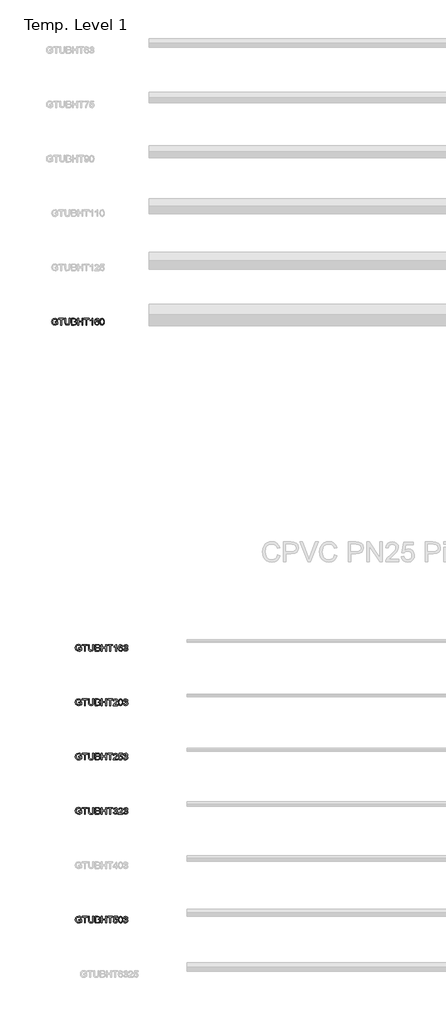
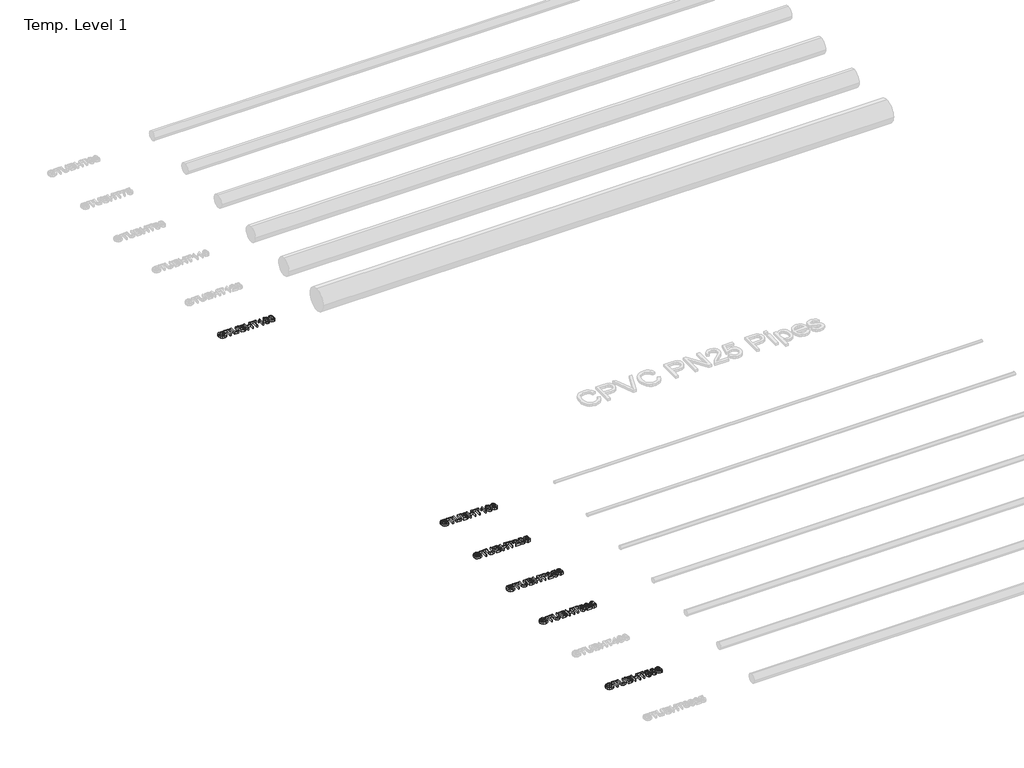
# One storey, part 7 of 62: 6 proxies.
"""IFC4 building model written with IfcOpenShell, lengths in millimetres."""

from ifc_helpers import new_model, si_unit, origin, origin_with_axes, place, context, project, spatial, polyline, outline, extrude, element, save

model = new_model("IFC4")

# Units and contexts
model_context = context("Model", 3, world=origin())
ifc_project = project(units=[si_unit("LENGTHUNIT", "METRE", prefix="MILLI")], contexts=[model_context])

# Site, building, storey
site = spatial("IfcSite", under=ifc_project)
building = spatial("IfcBuilding", under=site)
storey = spatial("IfcBuildingStorey", under=building, Name="Temp. Level 1", Elevation=0.0)

# Proxies
placement = place(None, origin())
element("IfcBuildingElementProxy", 1, Name="50mm Arial", ObjectType="50mm Arial", at=placement, inside=storey, context=model_context, shape_type="SweptSolid", body=[
    extrude(outline(polyline([(2446.7141386, -4678.4984888), (2446.7141386, -4672.3446426), (2466.7141386, -4672.3446426), (2466.7141386, -4690.7460849), (2456.8403406, -4696.5513734), (2446.4016386, -4698.4984888), (2433.2586098, -4695.4035368), (2424.3403406, -4686.4432003), (2421.3295233, -4673.354258), (2424.3283213, -4659.9708445), (2432.9521194, -4650.7460849), (2445.9088502, -4647.729258), (2455.536254, -4649.4780561), (2462.2850521, -4654.3458445), (2466.005004, -4662.4888734), (2460.3319271, -4664.0874311), (2457.5254367, -4658.3963253), (2452.7297636, -4655.1150753), (2445.8126963, -4653.8831042), (2437.9340906, -4655.2112292), (2432.5735136, -4658.6968061), (2429.4064463, -4663.4383926), (2427.4833694, -4673.1018542), (2429.7970713, -4683.8290176), (2436.5278406, -4690.2472868), (2445.9088502, -4692.3446426), (2454.3283213, -4690.7641138), (2460.5602925, -4687.3927195), (2460.5602925, -4678.4984888), (2446.7141386, -4678.4984888)])), origin_with_axes(), (0.0, 0.0, 1.0), 15.0),
    extrude(outline(polyline([(2489.0218309, -4697.729258), (2489.0218309, -4654.6523349), (2472.8679848, -4654.6523349), (2472.8679848, -4648.4984888), (2511.3295233, -4648.4984888), (2511.3295233, -4654.6523349), (2495.1756771, -4654.6523349), (2495.1756771, -4697.729258), (2489.0218309, -4697.729258)])), origin_with_axes(), (0.0, 0.0, 1.0), 15.0),
    extrude(outline(polyline([(2550.5602925, -4648.4984888), (2556.7141386, -4648.4984888), (2556.7141386, -4676.8999311), (2555.0434656, -4688.6727676), (2549.0218309, -4695.7641138), (2537.6035617, -4698.4984888), (2526.3595713, -4696.1186811), (2520.1215906, -4689.2256522), (2518.2526002, -4676.8999311), (2518.2526002, -4648.4984888), (2524.4064463, -4648.4984888), (2524.4064463, -4676.6835849), (2525.6203886, -4686.0645945), (2529.7910617, -4690.7100272), (2537.0266386, -4692.3446426), (2547.4473117, -4689.1114695), (2550.5602925, -4676.6835849), (2550.5602925, -4648.4984888)])), origin_with_axes(), (0.0, 0.0, 1.0), 15.0),
    extrude(outline(polyline([(2567.4833694, -4697.729258), (2567.4833694, -4648.4984888), (2586.2694271, -4648.4984888), (2595.4701483, -4649.9468061), (2600.9028406, -4654.3999311), (2602.8679848, -4660.698008), (2601.2153406, -4666.4492099), (2596.2213502, -4670.8061811), (2602.2850521, -4675.3975272), (2604.4064463, -4683.0537772), (2602.958129, -4689.6703638), (2599.3703886, -4694.3819022), (2594.0158213, -4696.8819022), (2586.1251963, -4697.729258), (2567.4833694, -4697.729258)]), holes=[polyline([(2573.6372156, -4691.5754118), (2586.2574079, -4691.5754118), (2590.8247156, -4691.3350272), (2594.6888983, -4689.994883), (2597.2489944, -4687.260508), (2598.2526002, -4683.1138734), (2597.0747156, -4678.3302195), (2593.2586098, -4675.4756522), (2585.6564463, -4674.6523349), (2573.6372156, -4674.6523349), (2573.6372156, -4691.5754118)]), polyline([(2573.6372156, -4668.4984888), (2584.8751963, -4668.4984888), (2591.4376963, -4667.9696426), (2595.3860136, -4665.6919984), (2596.7141386, -4661.6835849), (2595.4761579, -4657.6691618), (2591.9304848, -4655.2953638), (2584.0218309, -4654.6523349), (2573.6372156, -4654.6523349), (2573.6372156, -4668.4984888)])]), origin_with_axes(), (0.0, 0.0, 1.0), 15.0),
    extrude(outline(polyline([(2612.8679848, -4697.729258), (2612.8679848, -4648.4984888), (2619.0218309, -4648.4984888), (2619.0218309, -4668.4984888), (2645.1756771, -4668.4984888), (2645.1756771, -4648.4984888), (2651.3295233, -4648.4984888), (2651.3295233, -4697.729258), (2645.1756771, -4697.729258), (2645.1756771, -4674.6523349), (2619.0218309, -4674.6523349), (2619.0218309, -4697.729258), (2612.8679848, -4697.729258)])), origin_with_axes(), (0.0, 0.0, 1.0), 15.0),
    extrude(outline(polyline([(2674.4064463, -4697.729258), (2674.4064463, -4654.6523349), (2658.2526002, -4654.6523349), (2658.2526002, -4648.4984888), (2696.7141386, -4648.4984888), (2696.7141386, -4654.6523349), (2680.5602925, -4654.6523349), (2680.5602925, -4697.729258), (2674.4064463, -4697.729258)])), origin_with_axes(), (0.0, 0.0, 1.0), 15.0),
    extrude(outline(polyline([(2724.4064463, -4697.729258), (2718.2526002, -4697.729258), (2718.2526002, -4659.3638734), (2712.4232733, -4663.5165176), (2705.9449079, -4666.6234888), (2705.9449079, -4660.8061811), (2714.9653406, -4655.0489695), (2720.4401002, -4648.4984888), (2724.4064463, -4648.4984888), (2724.4064463, -4697.729258)])), origin_with_axes(), (0.0, 0.0, 1.0), 15.0),
    extrude(outline(polyline([(2770.5602925, -4661.5754118), (2764.4064463, -4662.3446426), (2762.0747156, -4657.2124311), (2755.9088502, -4654.6523349), (2750.3559656, -4656.1427195), (2746.1552444, -4661.7376715), (2744.4064463, -4672.7052195), (2749.833129, -4667.7953638), (2756.5578886, -4666.1907965), (2767.0146194, -4670.5778157), (2771.3295233, -4681.9119503), (2769.2982733, -4690.4035368), (2763.7093309, -4696.4131522), (2755.6444271, -4698.4984888), (2743.1023598, -4692.9696426), (2739.4650401, -4685.6499311), (2738.2526002, -4674.7484888), (2739.598754, -4662.4918782), (2743.6372156, -4654.1114695), (2749.1510377, -4649.901734), (2756.2934656, -4648.4984888), (2766.0170233, -4651.9720465), (2770.5602925, -4661.5754118)]), holes=[polyline([(2744.4064463, -4681.8157965), (2745.8307252, -4687.1463253), (2749.6167829, -4691.0165176), (2755.1636579, -4692.3446426), (2762.4172636, -4689.5922388), (2765.1756771, -4682.1162772), (2762.4533213, -4674.9588253), (2754.911254, -4672.3446426), (2747.4653406, -4674.9588253), (2744.4064463, -4681.8157965)])]), origin_with_axes(), (0.0, 0.0, 1.0), 15.0),
    extrude(outline(polyline([(2776.7141386, -4684.6523349), (2782.8679848, -4683.8831042), (2786.2634175, -4690.3614695), (2792.6155809, -4692.3446426), (2800.0915425, -4689.6162772), (2802.8679848, -4682.8614695), (2800.1155809, -4676.4972868), (2793.1203886, -4673.979258), (2788.8054848, -4674.6523349), (2789.4905809, -4668.4984888), (2797.4593309, -4666.8037772), (2800.5602925, -4661.3710849), (2798.3126963, -4656.557383), (2792.5194271, -4654.6523349), (2786.6540425, -4656.5754118), (2783.6372156, -4662.3446426), (2777.4833694, -4661.5754118), (2782.5194271, -4651.9239695), (2792.3030809, -4648.4984888), (2799.7249559, -4650.1871907), (2804.9172636, -4654.8025753), (2806.7141386, -4661.010508), (2805.0074079, -4666.6835849), (2799.9593309, -4670.7581042), (2806.6660617, -4674.9648349), (2809.0218309, -4682.9696426), (2804.3102925, -4693.979258), (2792.3992348, -4698.4984888), (2781.6059656, -4694.6403157), (2776.7141386, -4684.6523349)])), origin_with_axes(), (0.0, 0.0, 1.0), 15.0),
])
element("IfcBuildingElementProxy", 2, Name="50mm Arial", ObjectType="50mm Arial", at=placement, inside=storey, context=model_context, shape_type="SweptSolid", body=[
    extrude(outline(polyline([(2446.7141386, -5078.4984888), (2446.7141386, -5072.3446426), (2466.7141386, -5072.3446426), (2466.7141386, -5090.7460849), (2456.8403406, -5096.5513734), (2446.4016386, -5098.4984888), (2433.2586098, -5095.4035368), (2424.3403406, -5086.4432003), (2421.3295233, -5073.354258), (2424.3283213, -5059.9708445), (2432.9521194, -5050.7460849), (2445.9088502, -5047.729258), (2455.536254, -5049.4780561), (2462.2850521, -5054.3458445), (2466.005004, -5062.4888734), (2460.3319271, -5064.0874311), (2457.5254367, -5058.3963253), (2452.7297636, -5055.1150753), (2445.8126963, -5053.8831042), (2437.9340906, -5055.2112292), (2432.5735136, -5058.6968061), (2429.4064463, -5063.4383926), (2427.4833694, -5073.1018542), (2429.7970713, -5083.8290176), (2436.5278406, -5090.2472868), (2445.9088502, -5092.3446426), (2454.3283213, -5090.7641138), (2460.5602925, -5087.3927195), (2460.5602925, -5078.4984888), (2446.7141386, -5078.4984888)])), origin_with_axes(), (0.0, 0.0, 1.0), 15.0),
    extrude(outline(polyline([(2489.0218309, -5097.729258), (2489.0218309, -5054.6523349), (2472.8679848, -5054.6523349), (2472.8679848, -5048.4984888), (2511.3295233, -5048.4984888), (2511.3295233, -5054.6523349), (2495.1756771, -5054.6523349), (2495.1756771, -5097.729258), (2489.0218309, -5097.729258)])), origin_with_axes(), (0.0, 0.0, 1.0), 15.0),
    extrude(outline(polyline([(2550.5602925, -5048.4984888), (2556.7141386, -5048.4984888), (2556.7141386, -5076.8999311), (2555.0434656, -5088.6727676), (2549.0218309, -5095.7641138), (2537.6035617, -5098.4984888), (2526.3595713, -5096.1186811), (2520.1215906, -5089.2256522), (2518.2526002, -5076.8999311), (2518.2526002, -5048.4984888), (2524.4064463, -5048.4984888), (2524.4064463, -5076.6835849), (2525.6203886, -5086.0645945), (2529.7910617, -5090.7100272), (2537.0266386, -5092.3446426), (2547.4473117, -5089.1114695), (2550.5602925, -5076.6835849), (2550.5602925, -5048.4984888)])), origin_with_axes(), (0.0, 0.0, 1.0), 15.0),
    extrude(outline(polyline([(2567.4833694, -5097.729258), (2567.4833694, -5048.4984888), (2586.2694271, -5048.4984888), (2595.4701483, -5049.9468061), (2600.9028406, -5054.3999311), (2602.8679848, -5060.698008), (2601.2153406, -5066.4492099), (2596.2213502, -5070.8061811), (2602.2850521, -5075.3975272), (2604.4064463, -5083.0537772), (2602.958129, -5089.6703638), (2599.3703886, -5094.3819022), (2594.0158213, -5096.8819022), (2586.1251963, -5097.729258), (2567.4833694, -5097.729258)]), holes=[polyline([(2573.6372156, -5091.5754118), (2586.2574079, -5091.5754118), (2590.8247156, -5091.3350272), (2594.6888983, -5089.994883), (2597.2489944, -5087.260508), (2598.2526002, -5083.1138734), (2597.0747156, -5078.3302195), (2593.2586098, -5075.4756522), (2585.6564463, -5074.6523349), (2573.6372156, -5074.6523349), (2573.6372156, -5091.5754118)]), polyline([(2573.6372156, -5068.4984888), (2584.8751963, -5068.4984888), (2591.4376963, -5067.9696426), (2595.3860136, -5065.6919984), (2596.7141386, -5061.6835849), (2595.4761579, -5057.6691618), (2591.9304848, -5055.2953638), (2584.0218309, -5054.6523349), (2573.6372156, -5054.6523349), (2573.6372156, -5068.4984888)])]), origin_with_axes(), (0.0, 0.0, 1.0), 15.0),
    extrude(outline(polyline([(2612.8679848, -5097.729258), (2612.8679848, -5048.4984888), (2619.0218309, -5048.4984888), (2619.0218309, -5068.4984888), (2645.1756771, -5068.4984888), (2645.1756771, -5048.4984888), (2651.3295233, -5048.4984888), (2651.3295233, -5097.729258), (2645.1756771, -5097.729258), (2645.1756771, -5074.6523349), (2619.0218309, -5074.6523349), (2619.0218309, -5097.729258), (2612.8679848, -5097.729258)])), origin_with_axes(), (0.0, 0.0, 1.0), 15.0),
    extrude(outline(polyline([(2674.4064463, -5097.729258), (2674.4064463, -5054.6523349), (2658.2526002, -5054.6523349), (2658.2526002, -5048.4984888), (2696.7141386, -5048.4984888), (2696.7141386, -5054.6523349), (2680.5602925, -5054.6523349), (2680.5602925, -5097.729258), (2674.4064463, -5097.729258)])), origin_with_axes(), (0.0, 0.0, 1.0), 15.0),
    extrude(outline(polyline([(2732.8679848, -5091.5754118), (2732.8679848, -5097.729258), (2700.5602925, -5097.729258), (2701.2213502, -5093.4864695), (2704.9593309, -5086.9540176), (2712.6636579, -5079.8206042), (2723.2886579, -5069.5682003), (2725.9449079, -5062.5970465), (2723.4388983, -5056.9540176), (2716.8944271, -5054.6523349), (2710.0735136, -5056.8999311), (2707.4833694, -5063.1138734), (2701.3295233, -5062.3446426), (2706.0470713, -5052.0441618), (2717.0266386, -5048.4984888), (2728.0422636, -5052.4407965), (2732.098754, -5062.2244503), (2731.005004, -5068.0597868), (2727.3691867, -5074.0934407), (2718.5530809, -5082.5249311), (2711.473754, -5088.4444022), (2708.6973117, -5091.5754118), (2732.8679848, -5091.5754118)])), origin_with_axes(), (0.0, 0.0, 1.0), 15.0),
    extrude(outline(polyline([(2739.0218309, -5073.510508), (2740.8307252, -5059.3458445), (2746.2033213, -5051.1787772), (2755.1756771, -5048.4984888), (2762.3631771, -5050.0850272), (2767.3271194, -5054.6583445), (2770.2117348, -5061.9419984), (2771.3295233, -5073.510508), (2769.5386579, -5087.6150753), (2764.1840906, -5095.8001715), (2755.1756771, -5098.4984888), (2743.9256771, -5093.8109888), (2740.2477925, -5085.4846667), (2739.0218309, -5073.510508)]), holes=[polyline([(2745.1756771, -5073.4984888), (2748.0602925, -5088.7809407), (2755.1756771, -5092.3446426), (2762.2910617, -5088.7689215), (2765.1756771, -5073.4984888), (2762.3872156, -5058.3903157), (2755.1035617, -5054.6523349), (2748.1564463, -5057.9456042), (2745.1756771, -5073.4984888)])]), origin_with_axes(), (0.0, 0.0, 1.0), 15.0),
    extrude(outline(polyline([(2776.7141386, -5084.6523349), (2782.8679848, -5083.8831042), (2786.2634175, -5090.3614695), (2792.6155809, -5092.3446426), (2800.0915425, -5089.6162772), (2802.8679848, -5082.8614695), (2800.1155809, -5076.4972868), (2793.1203886, -5073.979258), (2788.8054848, -5074.6523349), (2789.4905809, -5068.4984888), (2797.4593309, -5066.8037772), (2800.5602925, -5061.3710849), (2798.3126963, -5056.557383), (2792.5194271, -5054.6523349), (2786.6540425, -5056.5754118), (2783.6372156, -5062.3446426), (2777.4833694, -5061.5754118), (2782.5194271, -5051.9239695), (2792.3030809, -5048.4984888), (2799.7249559, -5050.1871907), (2804.9172636, -5054.8025753), (2806.7141386, -5061.010508), (2805.0074079, -5066.6835849), (2799.9593309, -5070.7581042), (2806.6660617, -5074.9648349), (2809.0218309, -5082.9696426), (2804.3102925, -5093.979258), (2792.3992348, -5098.4984888), (2781.6059656, -5094.6403157), (2776.7141386, -5084.6523349)])), origin_with_axes(), (0.0, 0.0, 1.0), 15.0),
])
element("IfcBuildingElementProxy", 3, Name="50mm Arial", ObjectType="50mm Arial", at=placement, inside=storey, context=model_context, shape_type="SweptSolid", body=[
    extrude(outline(polyline([(2446.7141386, -5478.4984888), (2446.7141386, -5472.3446426), (2466.7141386, -5472.3446426), (2466.7141386, -5490.7460849), (2456.8403406, -5496.5513734), (2446.4016386, -5498.4984888), (2433.2586098, -5495.4035368), (2424.3403406, -5486.4432003), (2421.3295233, -5473.354258), (2424.3283213, -5459.9708445), (2432.9521194, -5450.7460849), (2445.9088502, -5447.729258), (2455.536254, -5449.4780561), (2462.2850521, -5454.3458445), (2466.005004, -5462.4888734), (2460.3319271, -5464.0874311), (2457.5254367, -5458.3963253), (2452.7297636, -5455.1150753), (2445.8126963, -5453.8831042), (2437.9340906, -5455.2112292), (2432.5735136, -5458.6968061), (2429.4064463, -5463.4383926), (2427.4833694, -5473.1018542), (2429.7970713, -5483.8290176), (2436.5278406, -5490.2472868), (2445.9088502, -5492.3446426), (2454.3283213, -5490.7641138), (2460.5602925, -5487.3927195), (2460.5602925, -5478.4984888), (2446.7141386, -5478.4984888)])), origin_with_axes(), (0.0, 0.0, 1.0), 15.0),
    extrude(outline(polyline([(2489.0218309, -5497.729258), (2489.0218309, -5454.6523349), (2472.8679848, -5454.6523349), (2472.8679848, -5448.4984888), (2511.3295233, -5448.4984888), (2511.3295233, -5454.6523349), (2495.1756771, -5454.6523349), (2495.1756771, -5497.729258), (2489.0218309, -5497.729258)])), origin_with_axes(), (0.0, 0.0, 1.0), 15.0),
    extrude(outline(polyline([(2550.5602925, -5448.4984888), (2556.7141386, -5448.4984888), (2556.7141386, -5476.8999311), (2555.0434656, -5488.6727676), (2549.0218309, -5495.7641138), (2537.6035617, -5498.4984888), (2526.3595713, -5496.1186811), (2520.1215906, -5489.2256522), (2518.2526002, -5476.8999311), (2518.2526002, -5448.4984888), (2524.4064463, -5448.4984888), (2524.4064463, -5476.6835849), (2525.6203886, -5486.0645945), (2529.7910617, -5490.7100272), (2537.0266386, -5492.3446426), (2547.4473117, -5489.1114695), (2550.5602925, -5476.6835849), (2550.5602925, -5448.4984888)])), origin_with_axes(), (0.0, 0.0, 1.0), 15.0),
    extrude(outline(polyline([(2567.4833694, -5497.729258), (2567.4833694, -5448.4984888), (2586.2694271, -5448.4984888), (2595.4701483, -5449.9468061), (2600.9028406, -5454.3999311), (2602.8679848, -5460.698008), (2601.2153406, -5466.4492099), (2596.2213502, -5470.8061811), (2602.2850521, -5475.3975272), (2604.4064463, -5483.0537772), (2602.958129, -5489.6703638), (2599.3703886, -5494.3819022), (2594.0158213, -5496.8819022), (2586.1251963, -5497.729258), (2567.4833694, -5497.729258)]), holes=[polyline([(2573.6372156, -5491.5754118), (2586.2574079, -5491.5754118), (2590.8247156, -5491.3350272), (2594.6888983, -5489.994883), (2597.2489944, -5487.260508), (2598.2526002, -5483.1138734), (2597.0747156, -5478.3302195), (2593.2586098, -5475.4756522), (2585.6564463, -5474.6523349), (2573.6372156, -5474.6523349), (2573.6372156, -5491.5754118)]), polyline([(2573.6372156, -5468.4984888), (2584.8751963, -5468.4984888), (2591.4376963, -5467.9696426), (2595.3860136, -5465.6919984), (2596.7141386, -5461.6835849), (2595.4761579, -5457.6691618), (2591.9304848, -5455.2953638), (2584.0218309, -5454.6523349), (2573.6372156, -5454.6523349), (2573.6372156, -5468.4984888)])]), origin_with_axes(), (0.0, 0.0, 1.0), 15.0),
    extrude(outline(polyline([(2612.8679848, -5497.729258), (2612.8679848, -5448.4984888), (2619.0218309, -5448.4984888), (2619.0218309, -5468.4984888), (2645.1756771, -5468.4984888), (2645.1756771, -5448.4984888), (2651.3295233, -5448.4984888), (2651.3295233, -5497.729258), (2645.1756771, -5497.729258), (2645.1756771, -5474.6523349), (2619.0218309, -5474.6523349), (2619.0218309, -5497.729258), (2612.8679848, -5497.729258)])), origin_with_axes(), (0.0, 0.0, 1.0), 15.0),
    extrude(outline(polyline([(2674.4064463, -5497.729258), (2674.4064463, -5454.6523349), (2658.2526002, -5454.6523349), (2658.2526002, -5448.4984888), (2696.7141386, -5448.4984888), (2696.7141386, -5454.6523349), (2680.5602925, -5454.6523349), (2680.5602925, -5497.729258), (2674.4064463, -5497.729258)])), origin_with_axes(), (0.0, 0.0, 1.0), 15.0),
    extrude(outline(polyline([(2732.8679848, -5491.5754118), (2732.8679848, -5497.729258), (2700.5602925, -5497.729258), (2701.2213502, -5493.4864695), (2704.9593309, -5486.9540176), (2712.6636579, -5479.8206042), (2723.2886579, -5469.5682003), (2725.9449079, -5462.5970465), (2723.4388983, -5456.9540176), (2716.8944271, -5454.6523349), (2710.0735136, -5456.8999311), (2707.4833694, -5463.1138734), (2701.3295233, -5462.3446426), (2706.0470713, -5452.0441618), (2717.0266386, -5448.4984888), (2728.0422636, -5452.4407965), (2732.098754, -5462.2244503), (2731.005004, -5468.0597868), (2727.3691867, -5474.0934407), (2718.5530809, -5482.5249311), (2711.473754, -5488.4444022), (2708.6973117, -5491.5754118), (2732.8679848, -5491.5754118)])), origin_with_axes(), (0.0, 0.0, 1.0), 15.0),
    extrude(outline(polyline([(2739.0218309, -5484.6523349), (2745.1756771, -5483.8831042), (2748.2766386, -5490.2232484), (2754.7069271, -5492.3446426), (2762.4232733, -5489.3939215), (2765.1756771, -5481.5633926), (2762.5975521, -5474.2557003), (2754.8030809, -5471.5754118), (2749.4004367, -5472.6451234), (2745.9449079, -5475.4215657), (2739.7910617, -5474.6523349), (2745.1756771, -5449.2677195), (2769.0218309, -5449.2677195), (2769.0218309, -5455.4215657), (2750.1516386, -5455.4215657), (2747.5194271, -5468.979258), (2756.5218309, -5465.4215657), (2767.0446675, -5469.8326234), (2771.3295233, -5481.1787772), (2767.4713502, -5492.5970465), (2761.9304848, -5497.0231282), (2754.6828886, -5498.4984888), (2743.8235136, -5494.7064215), (2739.0218309, -5484.6523349)])), origin_with_axes(), (0.0, 0.0, 1.0), 15.0),
    extrude(outline(polyline([(2776.7141386, -5484.6523349), (2782.8679848, -5483.8831042), (2786.2634175, -5490.3614695), (2792.6155809, -5492.3446426), (2800.0915425, -5489.6162772), (2802.8679848, -5482.8614695), (2800.1155809, -5476.4972868), (2793.1203886, -5473.979258), (2788.8054848, -5474.6523349), (2789.4905809, -5468.4984888), (2797.4593309, -5466.8037772), (2800.5602925, -5461.3710849), (2798.3126963, -5456.557383), (2792.5194271, -5454.6523349), (2786.6540425, -5456.5754118), (2783.6372156, -5462.3446426), (2777.4833694, -5461.5754118), (2782.5194271, -5451.9239695), (2792.3030809, -5448.4984888), (2799.7249559, -5450.1871907), (2804.9172636, -5454.8025753), (2806.7141386, -5461.010508), (2805.0074079, -5466.6835849), (2799.9593309, -5470.7581042), (2806.6660617, -5474.9648349), (2809.0218309, -5482.9696426), (2804.3102925, -5493.979258), (2792.3992348, -5498.4984888), (2781.6059656, -5494.6403157), (2776.7141386, -5484.6523349)])), origin_with_axes(), (0.0, 0.0, 1.0), 15.0),
])
element("IfcBuildingElementProxy", 4, Name="50mm Arial", ObjectType="50mm Arial", at=placement, inside=storey, context=model_context, shape_type="SweptSolid", body=[
    extrude(outline(polyline([(2446.7141386, -5878.4984888), (2446.7141386, -5872.3446426), (2466.7141386, -5872.3446426), (2466.7141386, -5890.7460849), (2456.8403406, -5896.5513734), (2446.4016386, -5898.4984888), (2433.2586098, -5895.4035368), (2424.3403406, -5886.4432003), (2421.3295233, -5873.354258), (2424.3283213, -5859.9708445), (2432.9521194, -5850.7460849), (2445.9088502, -5847.729258), (2455.536254, -5849.4780561), (2462.2850521, -5854.3458445), (2466.005004, -5862.4888734), (2460.3319271, -5864.0874311), (2457.5254367, -5858.3963253), (2452.7297636, -5855.1150753), (2445.8126963, -5853.8831042), (2437.9340906, -5855.2112292), (2432.5735136, -5858.6968061), (2429.4064463, -5863.4383926), (2427.4833694, -5873.1018542), (2429.7970713, -5883.8290176), (2436.5278406, -5890.2472868), (2445.9088502, -5892.3446426), (2454.3283213, -5890.7641138), (2460.5602925, -5887.3927195), (2460.5602925, -5878.4984888), (2446.7141386, -5878.4984888)])), origin_with_axes(), (0.0, 0.0, 1.0), 15.0),
    extrude(outline(polyline([(2489.0218309, -5897.729258), (2489.0218309, -5854.6523349), (2472.8679848, -5854.6523349), (2472.8679848, -5848.4984888), (2511.3295233, -5848.4984888), (2511.3295233, -5854.6523349), (2495.1756771, -5854.6523349), (2495.1756771, -5897.729258), (2489.0218309, -5897.729258)])), origin_with_axes(), (0.0, 0.0, 1.0), 15.0),
    extrude(outline(polyline([(2550.5602925, -5848.4984888), (2556.7141386, -5848.4984888), (2556.7141386, -5876.8999311), (2555.0434656, -5888.6727676), (2549.0218309, -5895.7641138), (2537.6035617, -5898.4984888), (2526.3595713, -5896.1186811), (2520.1215906, -5889.2256522), (2518.2526002, -5876.8999311), (2518.2526002, -5848.4984888), (2524.4064463, -5848.4984888), (2524.4064463, -5876.6835849), (2525.6203886, -5886.0645945), (2529.7910617, -5890.7100272), (2537.0266386, -5892.3446426), (2547.4473117, -5889.1114695), (2550.5602925, -5876.6835849), (2550.5602925, -5848.4984888)])), origin_with_axes(), (0.0, 0.0, 1.0), 15.0),
    extrude(outline(polyline([(2567.4833694, -5897.729258), (2567.4833694, -5848.4984888), (2586.2694271, -5848.4984888), (2595.4701483, -5849.9468061), (2600.9028406, -5854.3999311), (2602.8679848, -5860.698008), (2601.2153406, -5866.4492099), (2596.2213502, -5870.8061811), (2602.2850521, -5875.3975272), (2604.4064463, -5883.0537772), (2602.958129, -5889.6703638), (2599.3703886, -5894.3819022), (2594.0158213, -5896.8819022), (2586.1251963, -5897.729258), (2567.4833694, -5897.729258)]), holes=[polyline([(2573.6372156, -5891.5754118), (2586.2574079, -5891.5754118), (2590.8247156, -5891.3350272), (2594.6888983, -5889.994883), (2597.2489944, -5887.260508), (2598.2526002, -5883.1138734), (2597.0747156, -5878.3302195), (2593.2586098, -5875.4756522), (2585.6564463, -5874.6523349), (2573.6372156, -5874.6523349), (2573.6372156, -5891.5754118)]), polyline([(2573.6372156, -5868.4984888), (2584.8751963, -5868.4984888), (2591.4376963, -5867.9696426), (2595.3860136, -5865.6919984), (2596.7141386, -5861.6835849), (2595.4761579, -5857.6691618), (2591.9304848, -5855.2953638), (2584.0218309, -5854.6523349), (2573.6372156, -5854.6523349), (2573.6372156, -5868.4984888)])]), origin_with_axes(), (0.0, 0.0, 1.0), 15.0),
    extrude(outline(polyline([(2612.8679848, -5897.729258), (2612.8679848, -5848.4984888), (2619.0218309, -5848.4984888), (2619.0218309, -5868.4984888), (2645.1756771, -5868.4984888), (2645.1756771, -5848.4984888), (2651.3295233, -5848.4984888), (2651.3295233, -5897.729258), (2645.1756771, -5897.729258), (2645.1756771, -5874.6523349), (2619.0218309, -5874.6523349), (2619.0218309, -5897.729258), (2612.8679848, -5897.729258)])), origin_with_axes(), (0.0, 0.0, 1.0), 15.0),
    extrude(outline(polyline([(2674.4064463, -5897.729258), (2674.4064463, -5854.6523349), (2658.2526002, -5854.6523349), (2658.2526002, -5848.4984888), (2696.7141386, -5848.4984888), (2696.7141386, -5854.6523349), (2680.5602925, -5854.6523349), (2680.5602925, -5897.729258), (2674.4064463, -5897.729258)])), origin_with_axes(), (0.0, 0.0, 1.0), 15.0),
    extrude(outline(polyline([(2701.3295233, -5884.6523349), (2707.4833694, -5883.8831042), (2710.8788021, -5890.3614695), (2717.2309656, -5892.3446426), (2724.7069271, -5889.6162772), (2727.4833694, -5882.8614695), (2724.7309656, -5876.4972868), (2717.7357733, -5873.979258), (2713.4208694, -5874.6523349), (2714.1059656, -5868.4984888), (2722.0747156, -5866.8037772), (2725.1756771, -5861.3710849), (2722.9280809, -5856.557383), (2717.1348117, -5854.6523349), (2711.2694271, -5856.5754118), (2708.2526002, -5862.3446426), (2702.098754, -5861.5754118), (2707.1348117, -5851.9239695), (2716.9184656, -5848.4984888), (2724.3403406, -5850.1871907), (2729.5326483, -5854.8025753), (2731.3295233, -5861.010508), (2729.6227925, -5866.6835849), (2724.5747156, -5870.7581042), (2731.2814463, -5874.9648349), (2733.6372156, -5882.9696426), (2728.9256771, -5893.979258), (2717.0146194, -5898.4984888), (2706.2213502, -5894.6403157), (2701.3295233, -5884.6523349)])), origin_with_axes(), (0.0, 0.0, 1.0), 15.0),
    extrude(outline(polyline([(2770.5602925, -5891.5754118), (2770.5602925, -5897.729258), (2738.2526002, -5897.729258), (2738.9136579, -5893.4864695), (2742.6516386, -5886.9540176), (2750.3559656, -5879.8206042), (2760.9809656, -5869.5682003), (2763.6372156, -5862.5970465), (2761.1312059, -5856.9540176), (2754.5867348, -5854.6523349), (2747.7658213, -5856.8999311), (2745.1756771, -5863.1138734), (2739.0218309, -5862.3446426), (2743.739379, -5852.0441618), (2754.7189463, -5848.4984888), (2765.7345713, -5852.4407965), (2769.7910617, -5862.2244503), (2768.6973117, -5868.0597868), (2765.0614944, -5874.0934407), (2756.2453886, -5882.5249311), (2749.1660617, -5888.4444022), (2746.3896194, -5891.5754118), (2770.5602925, -5891.5754118)])), origin_with_axes(), (0.0, 0.0, 1.0), 15.0),
    extrude(outline(polyline([(2776.7141386, -5884.6523349), (2782.8679848, -5883.8831042), (2786.2634175, -5890.3614695), (2792.6155809, -5892.3446426), (2800.0915425, -5889.6162772), (2802.8679848, -5882.8614695), (2800.1155809, -5876.4972868), (2793.1203886, -5873.979258), (2788.8054848, -5874.6523349), (2789.4905809, -5868.4984888), (2797.4593309, -5866.8037772), (2800.5602925, -5861.3710849), (2798.3126963, -5856.557383), (2792.5194271, -5854.6523349), (2786.6540425, -5856.5754118), (2783.6372156, -5862.3446426), (2777.4833694, -5861.5754118), (2782.5194271, -5851.9239695), (2792.3030809, -5848.4984888), (2799.7249559, -5850.1871907), (2804.9172636, -5854.8025753), (2806.7141386, -5861.010508), (2805.0074079, -5866.6835849), (2799.9593309, -5870.7581042), (2806.6660617, -5874.9648349), (2809.0218309, -5882.9696426), (2804.3102925, -5893.979258), (2792.3992348, -5898.4984888), (2781.6059656, -5894.6403157), (2776.7141386, -5884.6523349)])), origin_with_axes(), (0.0, 0.0, 1.0), 15.0),
])
element("IfcBuildingElementProxy", 5, Name="50mm Arial", ObjectType="50mm Arial", at=placement, inside=storey, context=model_context, shape_type="SweptSolid", body=[
    extrude(outline(polyline([(2446.7141386, -6678.4984888), (2446.7141386, -6672.3446426), (2466.7141386, -6672.3446426), (2466.7141386, -6690.7460849), (2456.8403406, -6696.5513734), (2446.4016386, -6698.4984888), (2433.2586098, -6695.4035368), (2424.3403406, -6686.4432003), (2421.3295233, -6673.354258), (2424.3283213, -6659.9708445), (2432.9521194, -6650.7460849), (2445.9088502, -6647.729258), (2455.536254, -6649.4780561), (2462.2850521, -6654.3458445), (2466.005004, -6662.4888734), (2460.3319271, -6664.0874311), (2457.5254367, -6658.3963253), (2452.7297636, -6655.1150753), (2445.8126963, -6653.8831042), (2437.9340906, -6655.2112292), (2432.5735136, -6658.6968061), (2429.4064463, -6663.4383926), (2427.4833694, -6673.1018542), (2429.7970713, -6683.8290176), (2436.5278406, -6690.2472868), (2445.9088502, -6692.3446426), (2454.3283213, -6690.7641138), (2460.5602925, -6687.3927195), (2460.5602925, -6678.4984888), (2446.7141386, -6678.4984888)])), origin_with_axes(), (0.0, 0.0, 1.0), 15.0),
    extrude(outline(polyline([(2489.0218309, -6697.729258), (2489.0218309, -6654.6523349), (2472.8679848, -6654.6523349), (2472.8679848, -6648.4984888), (2511.3295233, -6648.4984888), (2511.3295233, -6654.6523349), (2495.1756771, -6654.6523349), (2495.1756771, -6697.729258), (2489.0218309, -6697.729258)])), origin_with_axes(), (0.0, 0.0, 1.0), 15.0),
    extrude(outline(polyline([(2550.5602925, -6648.4984888), (2556.7141386, -6648.4984888), (2556.7141386, -6676.8999311), (2555.0434656, -6688.6727676), (2549.0218309, -6695.7641138), (2537.6035617, -6698.4984888), (2526.3595713, -6696.1186811), (2520.1215906, -6689.2256522), (2518.2526002, -6676.8999311), (2518.2526002, -6648.4984888), (2524.4064463, -6648.4984888), (2524.4064463, -6676.6835849), (2525.6203886, -6686.0645945), (2529.7910617, -6690.7100272), (2537.0266386, -6692.3446426), (2547.4473117, -6689.1114695), (2550.5602925, -6676.6835849), (2550.5602925, -6648.4984888)])), origin_with_axes(), (0.0, 0.0, 1.0), 15.0),
    extrude(outline(polyline([(2567.4833694, -6697.729258), (2567.4833694, -6648.4984888), (2586.2694271, -6648.4984888), (2595.4701483, -6649.9468061), (2600.9028406, -6654.3999311), (2602.8679848, -6660.698008), (2601.2153406, -6666.4492099), (2596.2213502, -6670.8061811), (2602.2850521, -6675.3975272), (2604.4064463, -6683.0537772), (2602.958129, -6689.6703638), (2599.3703886, -6694.3819022), (2594.0158213, -6696.8819022), (2586.1251963, -6697.729258), (2567.4833694, -6697.729258)]), holes=[polyline([(2573.6372156, -6691.5754118), (2586.2574079, -6691.5754118), (2590.8247156, -6691.3350272), (2594.6888983, -6689.994883), (2597.2489944, -6687.260508), (2598.2526002, -6683.1138734), (2597.0747156, -6678.3302195), (2593.2586098, -6675.4756522), (2585.6564463, -6674.6523349), (2573.6372156, -6674.6523349), (2573.6372156, -6691.5754118)]), polyline([(2573.6372156, -6668.4984888), (2584.8751963, -6668.4984888), (2591.4376963, -6667.9696426), (2595.3860136, -6665.6919984), (2596.7141386, -6661.6835849), (2595.4761579, -6657.6691618), (2591.9304848, -6655.2953638), (2584.0218309, -6654.6523349), (2573.6372156, -6654.6523349), (2573.6372156, -6668.4984888)])]), origin_with_axes(), (0.0, 0.0, 1.0), 15.0),
    extrude(outline(polyline([(2612.8679848, -6697.729258), (2612.8679848, -6648.4984888), (2619.0218309, -6648.4984888), (2619.0218309, -6668.4984888), (2645.1756771, -6668.4984888), (2645.1756771, -6648.4984888), (2651.3295233, -6648.4984888), (2651.3295233, -6697.729258), (2645.1756771, -6697.729258), (2645.1756771, -6674.6523349), (2619.0218309, -6674.6523349), (2619.0218309, -6697.729258), (2612.8679848, -6697.729258)])), origin_with_axes(), (0.0, 0.0, 1.0), 15.0),
    extrude(outline(polyline([(2674.4064463, -6697.729258), (2674.4064463, -6654.6523349), (2658.2526002, -6654.6523349), (2658.2526002, -6648.4984888), (2696.7141386, -6648.4984888), (2696.7141386, -6654.6523349), (2680.5602925, -6654.6523349), (2680.5602925, -6697.729258), (2674.4064463, -6697.729258)])), origin_with_axes(), (0.0, 0.0, 1.0), 15.0),
    extrude(outline(polyline([(2701.3295233, -6684.6523349), (2707.4833694, -6683.8831042), (2710.5843309, -6690.2232484), (2717.0146194, -6692.3446426), (2724.7309656, -6689.3939215), (2727.4833694, -6681.5633926), (2724.9052444, -6674.2557003), (2717.1107733, -6671.5754118), (2711.708129, -6672.6451234), (2708.2526002, -6675.4215657), (2702.098754, -6674.6523349), (2707.4833694, -6649.2677195), (2731.3295233, -6649.2677195), (2731.3295233, -6655.4215657), (2712.4593309, -6655.4215657), (2709.8271194, -6668.979258), (2718.8295233, -6665.4215657), (2729.3523598, -6669.8326234), (2733.6372156, -6681.1787772), (2729.7790425, -6692.5970465), (2724.2381771, -6697.0231282), (2716.9905809, -6698.4984888), (2706.1312059, -6694.7064215), (2701.3295233, -6684.6523349)])), origin_with_axes(), (0.0, 0.0, 1.0), 15.0),
    extrude(outline(polyline([(2739.0218309, -6673.510508), (2740.8307252, -6659.3458445), (2746.2033213, -6651.1787772), (2755.1756771, -6648.4984888), (2762.3631771, -6650.0850272), (2767.3271194, -6654.6583445), (2770.2117348, -6661.9419984), (2771.3295233, -6673.510508), (2769.5386579, -6687.6150753), (2764.1840906, -6695.8001715), (2755.1756771, -6698.4984888), (2743.9256771, -6693.8109888), (2740.2477925, -6685.4846667), (2739.0218309, -6673.510508)]), holes=[polyline([(2745.1756771, -6673.4984888), (2748.0602925, -6688.7809407), (2755.1756771, -6692.3446426), (2762.2910617, -6688.7689215), (2765.1756771, -6673.4984888), (2762.3872156, -6658.3903157), (2755.1035617, -6654.6523349), (2748.1564463, -6657.9456042), (2745.1756771, -6673.4984888)])]), origin_with_axes(), (0.0, 0.0, 1.0), 15.0),
    extrude(outline(polyline([(2776.7141386, -6684.6523349), (2782.8679848, -6683.8831042), (2786.2634175, -6690.3614695), (2792.6155809, -6692.3446426), (2800.0915425, -6689.6162772), (2802.8679848, -6682.8614695), (2800.1155809, -6676.4972868), (2793.1203886, -6673.979258), (2788.8054848, -6674.6523349), (2789.4905809, -6668.4984888), (2797.4593309, -6666.8037772), (2800.5602925, -6661.3710849), (2798.3126963, -6656.557383), (2792.5194271, -6654.6523349), (2786.6540425, -6656.5754118), (2783.6372156, -6662.3446426), (2777.4833694, -6661.5754118), (2782.5194271, -6651.9239695), (2792.3030809, -6648.4984888), (2799.7249559, -6650.1871907), (2804.9172636, -6654.8025753), (2806.7141386, -6661.010508), (2805.0074079, -6666.6835849), (2799.9593309, -6670.7581042), (2806.6660617, -6674.9648349), (2809.0218309, -6682.9696426), (2804.3102925, -6693.979258), (2792.3992348, -6698.4984888), (2781.6059656, -6694.6403157), (2776.7141386, -6684.6523349)])), origin_with_axes(), (0.0, 0.0, 1.0), 15.0),
])
element("IfcBuildingElementProxy", 6, Name="50mm Arial", ObjectType="50mm Arial", at=placement, inside=storey, context=model_context, shape_type="SweptSolid", body=[
    extrude(outline(polyline([(2272.098754, -2278.4984888), (2272.098754, -2272.3446426), (2292.098754, -2272.3446426), (2292.098754, -2290.7460849), (2282.2249559, -2296.5513734), (2271.786254, -2298.4984888), (2258.6432252, -2295.4035368), (2249.7249559, -2286.4432003), (2246.7141386, -2273.354258), (2249.7129367, -2259.9708445), (2258.3367348, -2250.7460849), (2271.2934656, -2247.729258), (2280.9208694, -2249.4780561), (2287.6696675, -2254.3458445), (2291.3896194, -2262.4888734), (2285.7165425, -2264.0874311), (2282.9100521, -2258.3963253), (2278.114379, -2255.1150753), (2271.1973117, -2253.8831042), (2263.3187059, -2255.2112292), (2257.958129, -2258.6968061), (2254.7910617, -2263.4383926), (2252.8679848, -2273.1018542), (2255.1816867, -2283.8290176), (2261.9124559, -2290.2472868), (2271.2934656, -2292.3446426), (2279.7129367, -2290.7641138), (2285.9449079, -2287.3927195), (2285.9449079, -2278.4984888), (2272.098754, -2278.4984888)])), origin_with_axes(), (0.0, 0.0, 1.0), 15.0),
    extrude(outline(polyline([(2314.4064463, -2297.729258), (2314.4064463, -2254.6523349), (2298.2526002, -2254.6523349), (2298.2526002, -2248.4984888), (2336.7141386, -2248.4984888), (2336.7141386, -2254.6523349), (2320.5602925, -2254.6523349), (2320.5602925, -2297.729258), (2314.4064463, -2297.729258)])), origin_with_axes(), (0.0, 0.0, 1.0), 15.0),
    extrude(outline(polyline([(2375.9449079, -2248.4984888), (2382.098754, -2248.4984888), (2382.098754, -2276.8999311), (2380.4280809, -2288.6727676), (2374.4064463, -2295.7641138), (2362.9881771, -2298.4984888), (2351.7441867, -2296.1186811), (2345.5062059, -2289.2256522), (2343.6372156, -2276.8999311), (2343.6372156, -2248.4984888), (2349.7910617, -2248.4984888), (2349.7910617, -2276.6835849), (2351.005004, -2286.0645945), (2355.1756771, -2290.7100272), (2362.411254, -2292.3446426), (2372.8319271, -2289.1114695), (2375.9449079, -2276.6835849), (2375.9449079, -2248.4984888)])), origin_with_axes(), (0.0, 0.0, 1.0), 15.0),
    extrude(outline(polyline([(2392.8679848, -2297.729258), (2392.8679848, -2248.4984888), (2411.6540425, -2248.4984888), (2420.8547636, -2249.9468061), (2426.2874559, -2254.3999311), (2428.2526002, -2260.698008), (2426.5999559, -2266.4492099), (2421.6059656, -2270.8061811), (2427.6696675, -2275.3975272), (2429.7910617, -2283.0537772), (2428.3427444, -2289.6703638), (2424.755004, -2294.3819022), (2419.4004367, -2296.8819022), (2411.5098117, -2297.729258), (2392.8679848, -2297.729258)]), holes=[polyline([(2399.0218309, -2291.5754118), (2411.6420233, -2291.5754118), (2416.2093309, -2291.3350272), (2420.0735136, -2289.994883), (2422.6336098, -2287.260508), (2423.6372156, -2283.1138734), (2422.4593309, -2278.3302195), (2418.6432252, -2275.4756522), (2411.0410617, -2274.6523349), (2399.0218309, -2274.6523349), (2399.0218309, -2291.5754118)]), polyline([(2399.0218309, -2268.4984888), (2410.2598117, -2268.4984888), (2416.8223117, -2267.9696426), (2420.770629, -2265.6919984), (2422.098754, -2261.6835849), (2420.8607733, -2257.6691618), (2417.3151002, -2255.2953638), (2409.4064463, -2254.6523349), (2399.0218309, -2254.6523349), (2399.0218309, -2268.4984888)])]), origin_with_axes(), (0.0, 0.0, 1.0), 15.0),
    extrude(outline(polyline([(2438.2526002, -2297.729258), (2438.2526002, -2248.4984888), (2444.4064463, -2248.4984888), (2444.4064463, -2268.4984888), (2470.5602925, -2268.4984888), (2470.5602925, -2248.4984888), (2476.7141386, -2248.4984888), (2476.7141386, -2297.729258), (2470.5602925, -2297.729258), (2470.5602925, -2274.6523349), (2444.4064463, -2274.6523349), (2444.4064463, -2297.729258), (2438.2526002, -2297.729258)])), origin_with_axes(), (0.0, 0.0, 1.0), 15.0),
    extrude(outline(polyline([(2499.7910617, -2297.729258), (2499.7910617, -2254.6523349), (2483.6372156, -2254.6523349), (2483.6372156, -2248.4984888), (2522.098754, -2248.4984888), (2522.098754, -2254.6523349), (2505.9449079, -2254.6523349), (2505.9449079, -2297.729258), (2499.7910617, -2297.729258)])), origin_with_axes(), (0.0, 0.0, 1.0), 15.0),
    extrude(outline(polyline([(2549.7910617, -2297.729258), (2543.6372156, -2297.729258), (2543.6372156, -2259.3638734), (2537.8078886, -2263.5165176), (2531.3295233, -2266.6234888), (2531.3295233, -2260.8061811), (2540.3499559, -2255.0489695), (2545.8247156, -2248.4984888), (2549.7910617, -2248.4984888), (2549.7910617, -2297.729258)])), origin_with_axes(), (0.0, 0.0, 1.0), 15.0),
    extrude(outline(polyline([(2595.9449079, -2261.5754118), (2589.7910617, -2262.3446426), (2587.4593309, -2257.2124311), (2581.2934656, -2254.6523349), (2575.7405809, -2256.1427195), (2571.5398598, -2261.7376715), (2569.7910617, -2272.7052195), (2575.2177444, -2267.7953638), (2581.942504, -2266.1907965), (2592.3992348, -2270.5778157), (2596.7141386, -2281.9119503), (2594.6828886, -2290.4035368), (2589.0939463, -2296.4131522), (2581.0290425, -2298.4984888), (2568.4869752, -2292.9696426), (2564.8496555, -2285.6499311), (2563.6372156, -2274.7484888), (2564.9833694, -2262.4918782), (2569.0218309, -2254.1114695), (2574.5356531, -2249.901734), (2581.6780809, -2248.4984888), (2591.4016386, -2251.9720465), (2595.9449079, -2261.5754118)]), holes=[polyline([(2569.7910617, -2281.8157965), (2571.2153406, -2287.1463253), (2575.0013983, -2291.0165176), (2580.5482733, -2292.3446426), (2587.801879, -2289.5922388), (2590.5602925, -2282.1162772), (2587.8379367, -2274.9588253), (2580.2958694, -2272.3446426), (2572.8499559, -2274.9588253), (2569.7910617, -2281.8157965)])]), origin_with_axes(), (0.0, 0.0, 1.0), 15.0),
    extrude(outline(polyline([(2602.098754, -2273.510508), (2603.9076483, -2259.3458445), (2609.2802444, -2251.1787772), (2618.2526002, -2248.4984888), (2625.4401002, -2250.0850272), (2630.4040425, -2254.6583445), (2633.2886579, -2261.9419984), (2634.4064463, -2273.510508), (2632.6155809, -2287.6150753), (2627.2610136, -2295.8001715), (2618.2526002, -2298.4984888), (2607.0026002, -2293.8109888), (2603.3247156, -2285.4846667), (2602.098754, -2273.510508)]), holes=[polyline([(2608.2526002, -2273.4984888), (2611.1372156, -2288.7809407), (2618.2526002, -2292.3446426), (2625.3679848, -2288.7689215), (2628.2526002, -2273.4984888), (2625.4641386, -2258.3903157), (2618.1804848, -2254.6523349), (2611.2333694, -2257.9456042), (2608.2526002, -2273.4984888)])]), origin_with_axes(), (0.0, 0.0, 1.0), 15.0),
])

save(model, "model.ifc")
